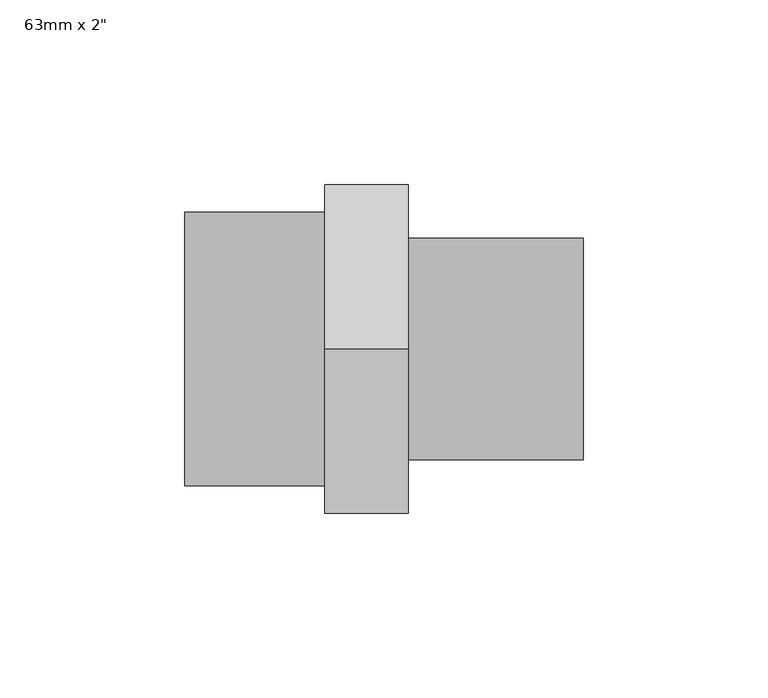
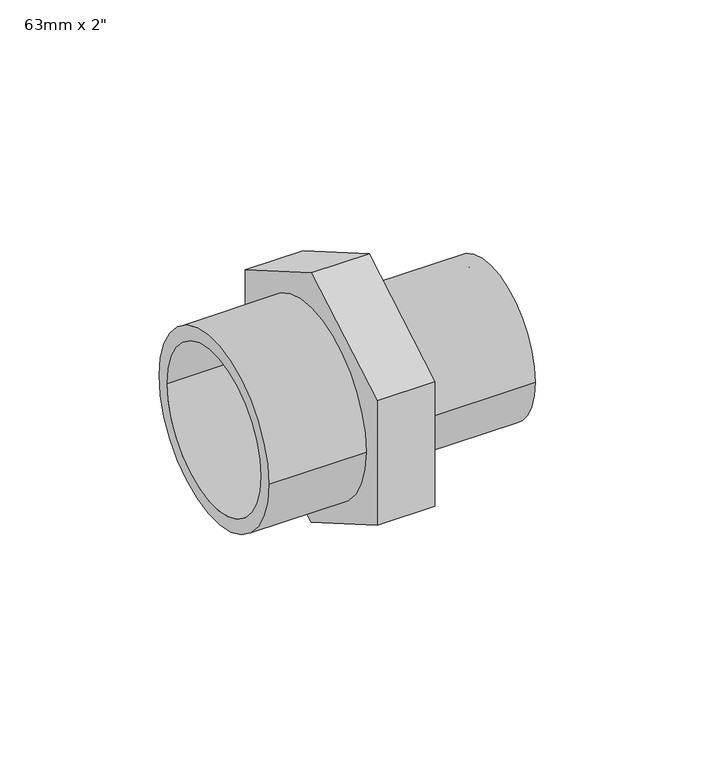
"""IFC4 building model written with IfcOpenShell, lengths in millimetres: pipe fitting geometry."""

from ifc_helpers import new_model, si_unit, point, frame, origin, origin_2d, place, context, project, spatial, polyline, circle_curve, trimmed, segment, composite_curve, outline, extrude, source, transform, mapped, element, save
from ifc_brep_helpers import plane_surface, cylinder_surface, revolved_surface, advanced_brep


def pipe_fitting_94a9438e(model_context):
    return source(origin(), model_context, "Body", "SolidModel", [
        extrude(outline(composite_curve([segment(trimmed(circle_curve(origin_2d(), 37.0), [point((-37.0, 0.0))], [point((37.0, 0.0))], False, "CARTESIAN"), True, "CONTINUOUS"), segment(trimmed(circle_curve(origin_2d(), 37.0), [point((37.0, 0.0))], [point((-37.0, 0.0))], False, "CARTESIAN"), True, "CONTINUOUS")], self_intersect=False), holes=[composite_curve([segment(trimmed(circle_curve(origin_2d(), 31.5), [point((-31.5, 0.0))], [point((31.5, 0.0))], True, "CARTESIAN"), True, "CONTINUOUS"), segment(trimmed(circle_curve(origin_2d(), 31.5), [point((31.5, 0.0))], [point((-31.5, 0.0))], True, "CARTESIAN"), True, "CONTINUOUS")], self_intersect=False)]), frame((-19.0, 0.0, 0.0), z_axis=(1.0, 0.0, 0.0), x_axis=(0.0, 1.0, 0.0)), (0.0, 0.0, 1.0), 38.0),
        advanced_brep(
        [(89.0, -30.0, 0.0), (89.0, 30.0, 0.0), (89.0, 25.0, 0.0), (89.0, -25.0, 0.0), (41.5, 30.0, 0.0), (41.5, -30.0, 0.0), (19.0, 0.0, 51.384174), (19.0, 44.5, 25.692087), (19.0, 44.5, -25.692087), (19.0, 0.0, -51.384174), (19.0, -44.5, -25.692087), (19.0, -44.5, 25.692087), (19.0, -25.0, 0.0), (19.0, 25.0, 0.0), (41.5, 0.0, 51.384174), (41.5, -44.5, 25.692087), (41.5, -44.5, -25.692087), (41.5, 0.0, -51.384174), (41.5, 44.5, -25.692087), (41.5, 44.5, 25.692087)],
        [
            (0, 1, circle_curve(frame((89.0, 0.0, 0.0), z_axis=(1.0, 0.0, 0.0), x_axis=(0.0, 1.0, 0.0)), 30.0)),
            (1, 0, circle_curve(frame((89.0, 0.0, 0.0), z_axis=(1.0, 0.0, 0.0), x_axis=(0.0, 1.0, 0.0)), 30.0)),
            (2, 3, circle_curve(frame((89.0, 0.0, 0.0), z_axis=(-1.0, 0.0, 0.0), x_axis=(0.0, -1.0, 0.0)), 25.0)),
            (3, 2, circle_curve(frame((89.0, 0.0, 0.0), z_axis=(-1.0, 0.0, 0.0), x_axis=(0.0, -1.0, 0.0)), 25.0)),
            (1, 4),
            (4, 5, circle_curve(frame((41.5, 0.0, 0.0), z_axis=(1.0, 0.0, 0.0), x_axis=(0.0, 1.0, 0.0)), 30.0)),
            (5, 0),
            (5, 4, circle_curve(frame((41.5, 0.0, 0.0), z_axis=(1.0, 0.0, 0.0), x_axis=(0.0, 1.0, 0.0)), 30.0)),
            (6, 7),
            (7, 8),
            (8, 9),
            (9, 10),
            (10, 11),
            (11, 6),
            (12, 13, circle_curve(frame((19.0, 0.0, 0.0), z_axis=(1.0, 0.0, 0.0), x_axis=(0.0, -1.0, 0.0)), 25.0)),
            (13, 12, circle_curve(frame((19.0, 0.0, 0.0), z_axis=(1.0, 0.0, 0.0), x_axis=(0.0, -1.0, 0.0)), 25.0)),
            (14, 15),
            (15, 16),
            (16, 17),
            (17, 18),
            (18, 19),
            (19, 14),
            (6, 14),
            (19, 7),
            (18, 8),
            (17, 9),
            (16, 10),
            (15, 11),
            (12, 3),
            (2, 13),
        ],
        [
            plane_surface(frame((89.0, 0.0, 0.0), z_axis=(1.0, 0.0, 0.0), x_axis=(0.0, 0.0, 1.0))),
            cylinder_surface(frame((41.5, 0.0, 0.0), z_axis=(-1.0, 0.0, 0.0), x_axis=(0.0, 1.0, 0.0)), 30.0),
            plane_surface(frame((19.0, 0.0, 0.0), z_axis=(-1.0, 0.0, 0.0), x_axis=(0.0, 0.0, 1.0))),
            plane_surface(frame((41.5, 0.0, 0.0), z_axis=(1.0, 0.0, 0.0), x_axis=(0.0, 0.0, 1.0))),
            plane_surface(frame((19.0, 0.0, 51.384174), z_axis=(0.0, 0.49999999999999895, 0.8660254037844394), x_axis=(1.0, 0.0, 0.0))),
            plane_surface(frame((19.0, 44.5, 25.692087), z_axis=(0.0, 1.0, 0.0), x_axis=(1.0, 0.0, 0.0))),
            plane_surface(frame((19.0, 44.5, -25.692087), z_axis=(0.0, 0.4999999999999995, -0.8660254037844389), x_axis=(1.0, 0.0, 0.0))),
            plane_surface(frame((19.0, 0.0, -51.384174), z_axis=(0.0, -0.49999999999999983, -0.8660254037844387), x_axis=(1.0, 0.0, 0.0))),
            plane_surface(frame((19.0, -44.5, -25.692087), z_axis=(0.0, -1.0, 0.0), x_axis=(1.0, 0.0, 0.0))),
            plane_surface(frame((19.0, -44.5, 25.692087), z_axis=(0.0, -0.5000000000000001, 0.8660254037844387), x_axis=(1.0, 0.0, 0.0))),
            revolved_surface(polyline([(19.0, -25.0, 0.0), (89.0, -25.0, 0.0)]), (89.0, 0.0, 0.0), (-1.0, 0.0, 0.0)),
        ],
        [
            (0, [[1, 2], [3, 4]]),
            (1, [[-2, 5, 6, 7]]),
            (1, [[-1, -7, 8, -5]]),
            (2, [[9, 10, 11, 12, 13, 14], [15, 16]]),
            (3, [[17, 18, 19, 20, 21, 22], [-6, -8]]),
            (4, [[-9, 23, -22, 24]]),
            (5, [[-10, -24, -21, 25]]),
            (6, [[-11, -25, -20, 26]]),
            (7, [[-12, -26, -19, 27]]),
            (8, [[-13, -27, -18, 28]]),
            (9, [[-14, -28, -17, -23]]),
            (10, [[29, -3, 30, -15]]),
            (10, [[-29, -16, -30, -4]]),
        ],
    ),
    ])


if __name__ == "__main__":
    model = new_model("IFC4")
    model_context = context("Model", 3, world=origin())
    ifc_project = project(units=[si_unit("LENGTHUNIT", "METRE", prefix="MILLI")], contexts=[model_context])
    site = spatial("IfcSite", under=ifc_project)
    building = spatial("IfcBuilding", under=site)
    placement = place(None, origin())
    pipe_fitting_shape = pipe_fitting_94a9438e(model_context)
    element("IfcPipeFitting", 1, ObjectType="PipeFitting_HTA_CPVC_Male3PieceUnions_(CPVC-Brass) : 63mm x 2\"", at=placement, inside=building, context=model_context, shape_type="MappedRepresentation", body=[
        mapped(pipe_fitting_shape, transform((0.0, 0.0, 0.0), x_axis=(1.0, 0.0, 0.0), y_axis=(0.0, 1.0, 0.0), z_axis=(0.0, 0.0, 1.0))),
    ])
    save(model, "model.ifc")
